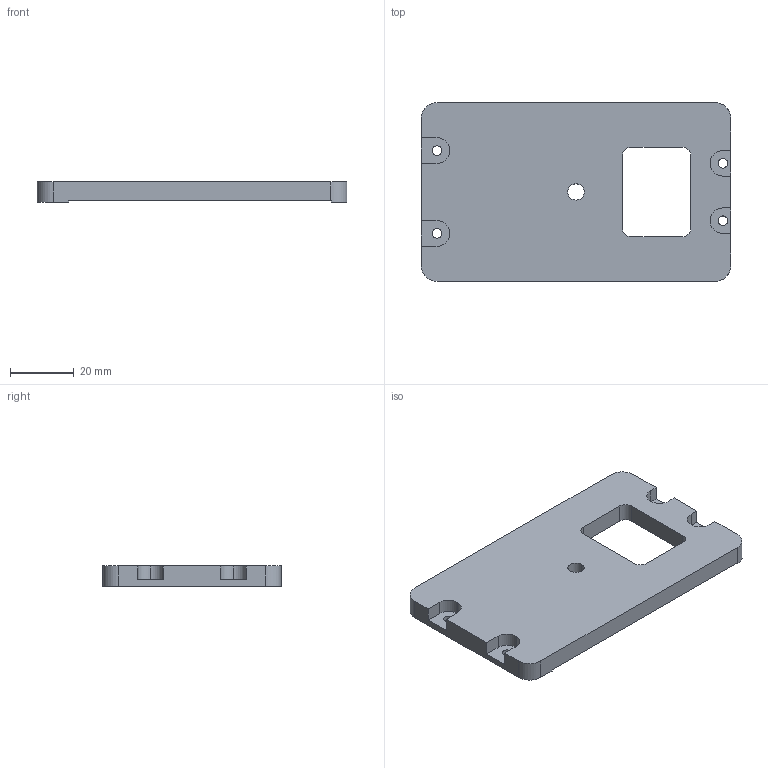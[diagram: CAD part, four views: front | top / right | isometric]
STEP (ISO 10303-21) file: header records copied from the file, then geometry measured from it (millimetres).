
FILE_DESCRIPTION (( 'STEP AP214' ), '1' );
FILE_NAME ('HR_TRIPOD_ADAPTER.STEP', '2016-01-08T06:01:53', ( '' ), ( '' ), 'SwSTEP 2.0', 'SolidWorks 2011', '' );
FILE_SCHEMA (( 'AUTOMOTIVE_DESIGN' ));
Length unit declared in the file: millimetre
Products named in the file (1): HR_TRIPOD_ADAPTER
Bounding box: 97.14 x 56 x 6.35 mm (x, y, z)
Volume: 27479 mm3; surface area: 12343 mm2
Topology: 1 solids, 1 shells, 50 faces, 144 edges, 96 vertices
Faces by surface type: plane 26, cylinder 24
Entity records: 1716 total; most frequent: DIRECTION 296, CARTESIAN_POINT 291, ORIENTED_EDGE 288, EDGE_CURVE 144, AXIS2_PLACEMENT_3D 101, VERTEX_POINT 96, LINE 94, VECTOR 94
